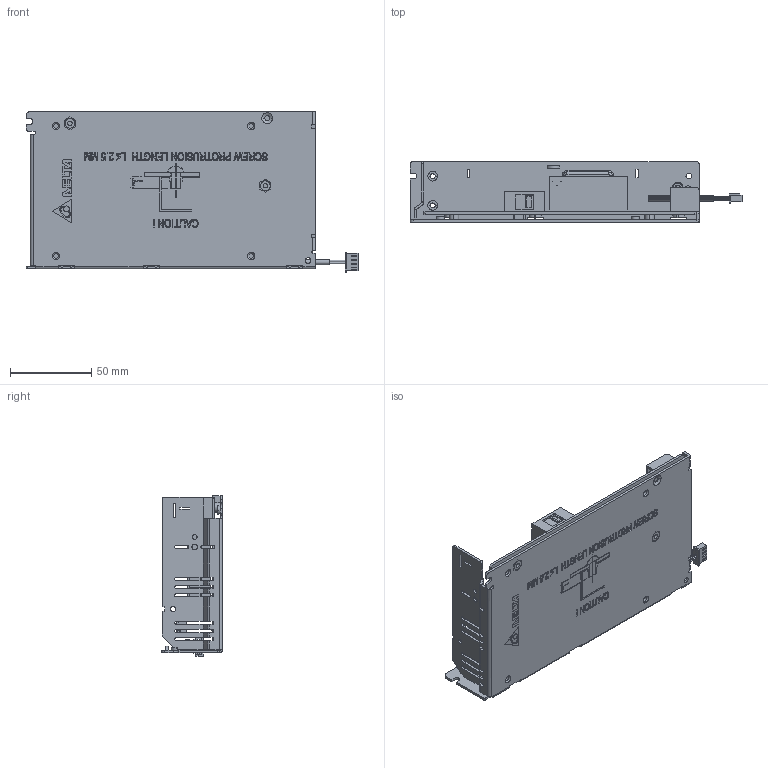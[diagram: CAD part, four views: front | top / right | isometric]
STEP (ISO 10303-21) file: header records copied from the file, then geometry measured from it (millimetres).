
FILE_DESCRIPTION((''),'2;1');
FILE_NAME('PMU-27V155WLCA_ASM','2016-12-29T',('warud'),(''),'PRO/ENGINEER BY PARAMETRIC TECHNOLOGY CORPORATION, 2010180','PRO/ENGINEER BY PARAMETRIC TECHNOLOGY CORPORATION, 2010180','');
FILE_SCHEMA(('CONFIG_CONTROL_DESIGN','SHAPE_APPEARANCE_LAYERS_GROUPS'));
Products named in the file (25): 330332620102_A_BODY_8; 330332620102_A_STUD_5; 330332620102_ASM_8_ASM; PWB_MAINBOARD_7; DCT-2454_2; EE_VR370_1; MANIFOLD_SOLID_BREP_114889; MANIFOLD_SOLID_BREP_115016; MANIFOLD_SOLID_BREP_115143; MANIFOLD_SOLID_BREP_115270; MANIFOLD_SOLID_BREP_115397; 400311XXXX_2_ASM; 3050031731_1; 367256240000_ASM_2_ASM; ASSY_DCT-2454_ASM_2_ASM; 307049757W_A_BODY_1; 307049757W_A_SCREW_1; 307049757W_ASM_1_ASM; 3000059426_SW1-1ST_1; ASSY_PWB-MAINBOARD_ASM_8_ASM; 3268095800_SPEC-LABEL_1; 3470309000_1; 3110110900_1; 310546190000_1; PMU-27V155WLCA_ASM
Assembly tree (31 placements, depth 6):
  PMU-27V155WLCA_ASM
    330332620102_ASM_8_ASM
      330332620102_A_BODY_8
      330332620102_A_STUD_5  x2
    ASSY_PWB-MAINBOARD_ASM_8_ASM
      PWB_MAINBOARD_7
      ASSY_DCT-2454_ASM_2_ASM
        DCT-2454_2
        EE_VR370_1
        367256240000_ASM_2_ASM
          400311XXXX_2_ASM
            MANIFOLD_SOLID_BREP_114889
            MANIFOLD_SOLID_BREP_115016
            MANIFOLD_SOLID_BREP_115143
            MANIFOLD_SOLID_BREP_115270
            MANIFOLD_SOLID_BREP_115397
          3050031731_1
      307049757W_ASM_1_ASM
        307049757W_A_BODY_1
        307049757W_A_SCREW_1  x7
      3000059426_SW1-1ST_1
    3268095800_SPEC-LABEL_1
    3470309000_1
    3110110900_1
    310546190000_1
Bounding box: 204.2 x 37.5 x 98.55 mm (x, y, z)
Volume: 80951.3 mm3; surface area: 107432.6 mm2
Topology: 25 solids, 25 shells, 2842 faces, 7594 edges, 4865 vertices
Faces by surface type: plane 1877, cylinder 436, extrusion 309, bspline 100, cone 88, torus 32
Entity records: 75616 total; most frequent: CARTESIAN_POINT 15335, ORIENTED_EDGE 11728, DIRECTION 10272, EDGE_CURVE 5864, VECTOR 4632, LINE 4323, VERTEX_POINT 3833, AXIS2_PLACEMENT_3D 2820
